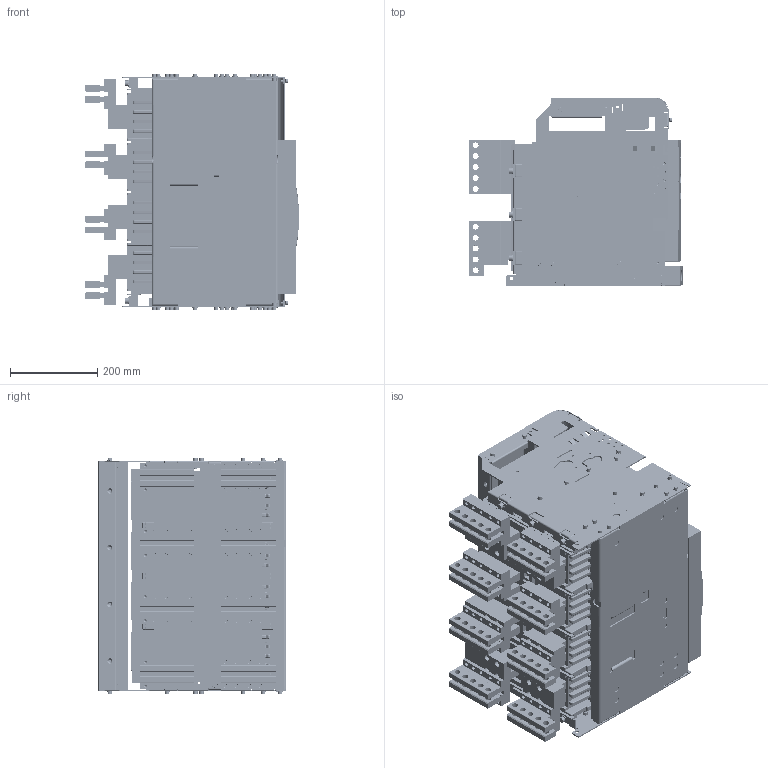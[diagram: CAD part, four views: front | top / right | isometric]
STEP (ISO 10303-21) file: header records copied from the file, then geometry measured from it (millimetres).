
FILE_DESCRIPTION (( 'STEP AP214' ), '1' );
FILE_NAME ('OptiMat A-S4-BH-4000-4P-D-V.STEP', '2023-10-19T10:07:44', ( '' ), ( '' ), 'SwSTEP 2.0', 'SolidWorks 2018', '' );
FILE_SCHEMA (( 'AUTOMOTIVE_DESIGN' ));
Length unit declared in the file: millimetre
Products named in the file (1): OptiMat A-S4-BH-4000-4P-D-V
Bounding box: 490.8 x 431.5 x 543 mm (x, y, z)
Volume: 58750502.8 mm3; surface area: 3999023 mm2
Topology: 148 solids, 190 shells, 9044 faces, 23553 edges, 15059 vertices
Faces by surface type: plane 4674, cylinder 3143, cone 519, torus 403, bspline 265, sphere 40
Entity records: 390929 total; most frequent: CARTESIAN_POINT 66067, DIRECTION 47597, ORIENTED_EDGE 46808, EDGE_CURVE 23404, AXIS2_PLACEMENT_3D 16653, VERTEX_POINT 15054, VECTOR 14291, LINE 14291
